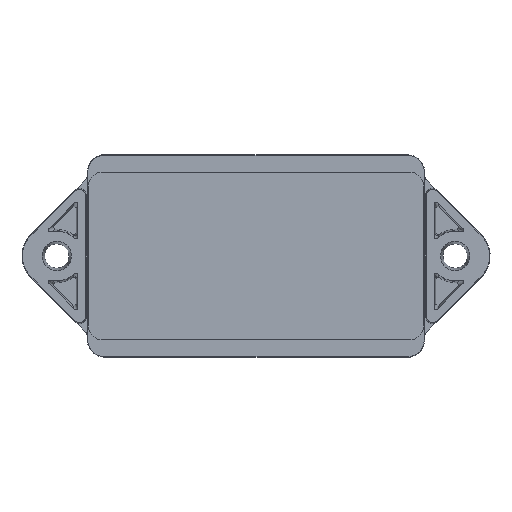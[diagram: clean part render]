
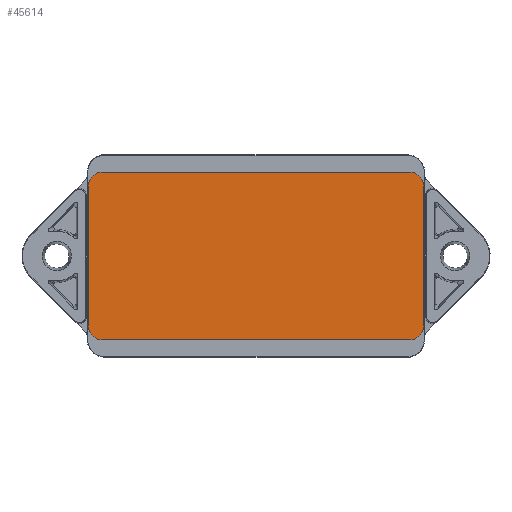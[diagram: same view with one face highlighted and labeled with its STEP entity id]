
A CAD part, front view. The second image highlights one B-rep face of the part: STEP entity #45614.
In plain terms, the highlighted planar face has unit normal (0, -1, 0) by its records, which use the part's own axes.
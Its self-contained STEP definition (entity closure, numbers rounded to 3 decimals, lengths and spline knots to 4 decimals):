
#420=CIRCLE($,#48100,0.125);
#422=CIRCLE($,#48104,0.125);
#424=CIRCLE($,#48108,0.125);
#426=CIRCLE($,#48112,0.125);
#2330=FACE_OUTER_BOUND($,#4789,.T.);
#4789=EDGE_LOOP($,(#28672,#28673,#28674,#28675,#28676,#28677,#28678,#28679));
#8479=LINE($,#63636,#13092);
#8483=LINE($,#63648,#13096);
#8487=LINE($,#63660,#13100);
#8490=LINE($,#63669,#13103);
#13092=VECTOR($,#51177,2.75);
#13096=VECTOR($,#51189,1.25);
#13100=VECTOR($,#51201,2.75);
#13103=VECTOR($,#51212,1.25);
#17727=VERTEX_POINT($,#63626);
#17728=VERTEX_POINT($,#63628);
#17730=VERTEX_POINT($,#63634);
#17732=VERTEX_POINT($,#63640);
#17734=VERTEX_POINT($,#63646);
#17736=VERTEX_POINT($,#63652);
#17738=VERTEX_POINT($,#63658);
#17740=VERTEX_POINT($,#63664);
#22077=EDGE_CURVE($,#17727,#17728,#420,.T.);
#22081=EDGE_CURVE($,#17730,#17727,#8479,.T.);
#22084=EDGE_CURVE($,#17732,#17730,#422,.T.);
#22087=EDGE_CURVE($,#17734,#17732,#8483,.T.);
#22090=EDGE_CURVE($,#17736,#17734,#424,.T.);
#22093=EDGE_CURVE($,#17738,#17736,#8487,.T.);
#22096=EDGE_CURVE($,#17740,#17738,#426,.T.);
#22098=EDGE_CURVE($,#17728,#17740,#8490,.T.);
#28672=ORIENTED_EDGE($,*,*,#22098,.F.);
#28673=ORIENTED_EDGE($,*,*,#22077,.F.);
#28674=ORIENTED_EDGE($,*,*,#22081,.F.);
#28675=ORIENTED_EDGE($,*,*,#22084,.F.);
#28676=ORIENTED_EDGE($,*,*,#22087,.F.);
#28677=ORIENTED_EDGE($,*,*,#22090,.F.);
#28678=ORIENTED_EDGE($,*,*,#22093,.F.);
#28679=ORIENTED_EDGE($,*,*,#22096,.F.);
#41451=PLANE($,#48114);
#45614=ADVANCED_FACE($,(#2330),#41451,.F.);
#48100=AXIS2_PLACEMENT_3D($,#63629,#51170,#51171);
#48104=AXIS2_PLACEMENT_3D($,#63642,#51183,#51184);
#48108=AXIS2_PLACEMENT_3D($,#63654,#51195,#51196);
#48112=AXIS2_PLACEMENT_3D($,#63666,#51207,#51208);
#48114=AXIS2_PLACEMENT_3D($,#63670,#51213,#51214);
#51170=DIRECTION('center_axis',(0.,1.,0.));
#51171=DIRECTION('ref_axis',(0.,0.,-1.));
#51177=DIRECTION($,(-1.,0.,0.));
#51183=DIRECTION('center_axis',(0.,1.,0.));
#51184=DIRECTION('ref_axis',(1.,0.,0.));
#51189=DIRECTION($,(0.,0.,-1.));
#51195=DIRECTION('center_axis',(0.,1.,0.));
#51196=DIRECTION('ref_axis',(0.,0.,1.));
#51201=DIRECTION($,(1.,0.,0.));
#51207=DIRECTION('center_axis',(0.,1.,0.));
#51208=DIRECTION('ref_axis',(-1.,0.,0.));
#51212=DIRECTION($,(0.,0.,1.));
#51213=DIRECTION('center_axis',(0.,1.,0.));
#51214=DIRECTION('ref_axis',(0.,0.,-1.));
#63626=CARTESIAN_POINT('',(-1.375,-0.3968,-0.75));
#63628=CARTESIAN_POINT('',(-1.5,-0.3968,-0.625));
#63629=CARTESIAN_POINT('Origin',(-1.375,-0.3968,-0.625));
#63634=CARTESIAN_POINT('',(1.375,-0.3968,-0.75));
#63636=CARTESIAN_POINT($,(1.375,-0.3968,-0.75));
#63640=CARTESIAN_POINT('',(1.5,-0.3968,-0.625));
#63642=CARTESIAN_POINT('Origin',(1.375,-0.3968,-0.625));
#63646=CARTESIAN_POINT('',(1.5,-0.3968,0.625));
#63648=CARTESIAN_POINT($,(1.5,-0.3968,0.625));
#63652=CARTESIAN_POINT('',(1.375,-0.3968,0.75));
#63654=CARTESIAN_POINT('Origin',(1.375,-0.3968,0.625));
#63658=CARTESIAN_POINT('',(-1.375,-0.3968,0.75));
#63660=CARTESIAN_POINT($,(-1.375,-0.3968,0.75));
#63664=CARTESIAN_POINT('',(-1.5,-0.3968,0.625));
#63666=CARTESIAN_POINT('Origin',(-1.375,-0.3968,0.625));
#63669=CARTESIAN_POINT($,(-1.5,-0.3968,-0.625));
#63670=CARTESIAN_POINT('Origin',(0.,-0.3968,
0.));
